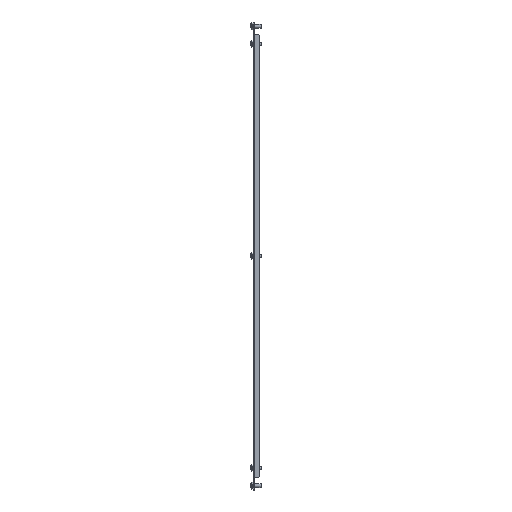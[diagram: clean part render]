
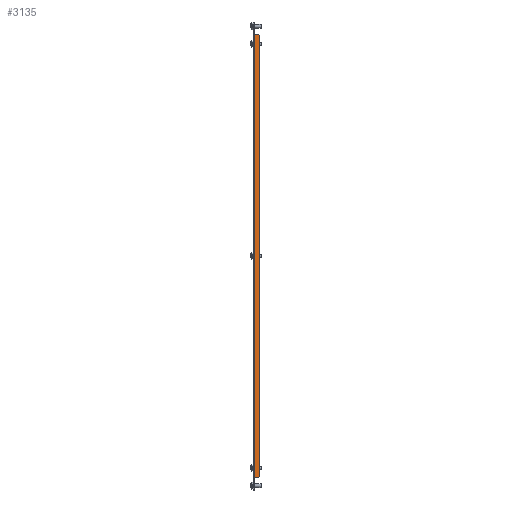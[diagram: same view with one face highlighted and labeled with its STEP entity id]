
A CAD part, left-side view. The second image highlights one B-rep face of the part: STEP entity #3135.
In plain terms, the highlighted planar face has unit normal (-1, 0, 0) as drawn and (1, 0, 0) by its records, which use the part's own axes.
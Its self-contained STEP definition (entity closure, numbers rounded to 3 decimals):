
#60 = LINE ( 'NONE', #890, #1837 ) ;
#67 = CARTESIAN_POINT ( 'NONE',  ( 634., 0., 0. ) ) ;
#91 = CARTESIAN_POINT ( 'NONE',  ( 634., -313., 0. ) ) ;
#102 = CARTESIAN_POINT ( 'NONE',  ( 634., 313., -8. ) ) ;
#238 = VERTEX_POINT ( 'NONE', #1816 ) ;
#292 = ORIENTED_EDGE ( 'NONE', *, *, #639, .T. ) ;
#296 = CARTESIAN_POINT ( 'NONE',  ( 634., 313., -2.1 ) ) ;
#375 = CARTESIAN_POINT ( 'NONE',  ( 634., -313., 0. ) ) ;
#429 = VECTOR ( 'NONE', #2313, 1000. ) ;
#455 = ORIENTED_EDGE ( 'NONE', *, *, #685, .T. ) ;
#512 = EDGE_LOOP ( 'NONE', ( #2844, #455, #292, #2086, #1906, #2704, #2166, #2370 ) ) ;
#579 = CARTESIAN_POINT ( 'NONE',  ( 634., 313., -2.1 ) ) ;
#605 = VERTEX_POINT ( 'NONE', #906 ) ;
#639 = EDGE_CURVE ( 'NONE', #3206, #2280, #60, .T. ) ;
#685 = EDGE_CURVE ( 'NONE', #238, #3206, #3125, .T. ) ;
#708 = EDGE_CURVE ( 'NONE', #2468, #1702, #2877, .T. ) ;
#786 = CARTESIAN_POINT ( 'NONE',  ( 634., 313., -8. ) ) ;
#881 = DIRECTION ( 'NONE',  ( 0., 1., 0. ) ) ;
#890 = CARTESIAN_POINT ( 'NONE',  ( 634., 313., 0. ) ) ;
#906 = CARTESIAN_POINT ( 'NONE',  ( 634., -313., -8. ) ) ;
#1031 = VECTOR ( 'NONE', #2269, 1000. ) ;
#1053 = LINE ( 'NONE', #2168, #2175 ) ;
#1092 = LINE ( 'NONE', #2221, #1147 ) ;
#1111 = VERTEX_POINT ( 'NONE', #2932 ) ;
#1147 = VECTOR ( 'NONE', #3345, 1000. ) ;
#1410 = CARTESIAN_POINT ( 'NONE',  ( 634., -312., -9. ) ) ;
#1419 = EDGE_CURVE ( 'NONE', #2468, #605, #1092, .T. ) ;
#1425 = DIRECTION ( 'NONE',  ( 0., 0.707, -0.707 ) ) ;
#1461 = DIRECTION ( 'NONE',  ( 0., -1., 0. ) ) ;
#1596 = EDGE_CURVE ( 'NONE', #2280, #1111, #2287, .T. ) ;
#1633 = LINE ( 'NONE', #1410, #2886 ) ;
#1648 = DIRECTION ( 'NONE',  ( -1., 0., 0. ) ) ;
#1702 = VERTEX_POINT ( 'NONE', #91 ) ;
#1781 = EDGE_CURVE ( 'NONE', #605, #2867, #1633, .T. ) ;
#1816 = CARTESIAN_POINT ( 'NONE',  ( 634., 312., -9. ) ) ;
#1837 = VECTOR ( 'NONE', #2859, 1000. ) ;
#1906 = ORIENTED_EDGE ( 'NONE', *, *, #2798, .T. ) ;
#2026 = AXIS2_PLACEMENT_3D ( 'NONE', #3014, #1648, #3367 ) ;
#2071 = CARTESIAN_POINT ( 'NONE',  ( 634., -313., -2.1 ) ) ;
#2086 = ORIENTED_EDGE ( 'NONE', *, *, #1596, .T. ) ;
#2166 = ORIENTED_EDGE ( 'NONE', *, *, #1419, .T. ) ;
#2168 = CARTESIAN_POINT ( 'NONE',  ( 634., 0., -9. ) ) ;
#2175 = VECTOR ( 'NONE', #881, 1000. ) ;
#2221 = CARTESIAN_POINT ( 'NONE',  ( 634., -313., 0. ) ) ;
#2269 = DIRECTION ( 'NONE',  ( 0., 0., 1. ) ) ;
#2280 = VERTEX_POINT ( 'NONE', #579 ) ;
#2287 = LINE ( 'NONE', #296, #1031 ) ;
#2313 = DIRECTION ( 'NONE',  ( 0., 0.707, 0.707 ) ) ;
#2350 = DIRECTION ( 'NONE',  ( 0., 0., 1. ) ) ;
#2370 = ORIENTED_EDGE ( 'NONE', *, *, #1781, .T. ) ;
#2468 = VERTEX_POINT ( 'NONE', #2071 ) ;
#2550 = VECTOR ( 'NONE', #2350, 1000. ) ;
#2570 = VECTOR ( 'NONE', #1461, 1000. ) ;
#2704 = ORIENTED_EDGE ( 'NONE', *, *, #708, .F. ) ;
#2798 = EDGE_CURVE ( 'NONE', #1111, #1702, #2883, .T. ) ;
#2844 = ORIENTED_EDGE ( 'NONE', *, *, #3594, .T. ) ;
#2859 = DIRECTION ( 'NONE',  ( 0., 0., 1. ) ) ;
#2867 = VERTEX_POINT ( 'NONE', #3169 ) ;
#2877 = LINE ( 'NONE', #375, #2550 ) ;
#2883 = LINE ( 'NONE', #67, #2570 ) ;
#2886 = VECTOR ( 'NONE', #1425, 1000. ) ;
#2932 = CARTESIAN_POINT ( 'NONE',  ( 634., 313., 0. ) ) ;
#3014 = CARTESIAN_POINT ( 'NONE',  ( 634., 0., 0. ) ) ;
#3053 = PLANE ( 'NONE',  #2026 ) ;
#3125 = LINE ( 'NONE', #102, #429 ) ;
#3135 = ADVANCED_FACE ( 'NONE', ( #3333 ), #3053, .F. ) ;
#3169 = CARTESIAN_POINT ( 'NONE',  ( 634., -312., -9. ) ) ;
#3206 = VERTEX_POINT ( 'NONE', #786 ) ;
#3333 = FACE_OUTER_BOUND ( 'NONE', #512, .T. ) ;
#3345 = DIRECTION ( 'NONE',  ( 0., 0., -1. ) ) ;
#3367 = DIRECTION ( 'NONE',  ( 0., 0., 1. ) ) ;
#3594 = EDGE_CURVE ( 'NONE', #2867, #238, #1053, .T. ) ;
